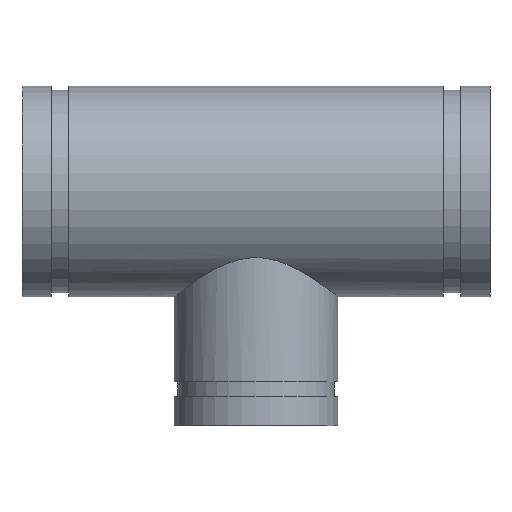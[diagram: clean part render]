
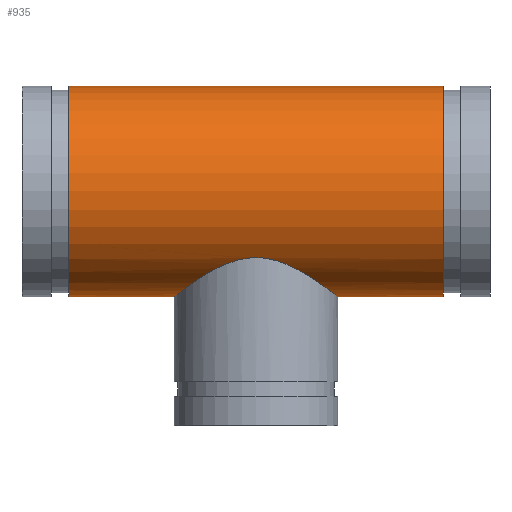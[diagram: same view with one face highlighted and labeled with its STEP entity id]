
A CAD part, top view. The second image highlights one B-rep face of the part: STEP entity #935.
In plain terms, the highlighted cylindrical face has radius 57.15 mm (diameter 114.3 mm), a full revolution.
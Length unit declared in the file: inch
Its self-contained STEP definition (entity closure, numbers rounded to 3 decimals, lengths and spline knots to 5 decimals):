
#61=FACE_BOUND('',#222,.T.);
#67=B_SPLINE_CURVE_WITH_KNOTS('',3,(#1807,#1808,#1809,#1810,#1811,#1812,
#1813,#1814,#1815,#1816,#1817,#1818,#1819,#1820,#1821,#1822,#1823,#1824),
 .UNSPECIFIED.,.F.,.F.,(4,2,2,2,2,2,2,2,4),(0.,0.90377,1.80754,
2.7113,3.61507,4.49524,5.37541,6.25558,
7.13574),.UNSPECIFIED.);
#68=B_SPLINE_CURVE_WITH_KNOTS('',3,(#1825,#1826,#1827,#1828,#1829,#1830,
#1831,#1832,#1833,#1834,#1835,#1836,#1837,#1838,#1839,#1840,#1841,#1842,
#1843,#1844,#1845,#1846,#1847,#1848,#1849,#1850,#1851,#1852,#1853,#1854,
#1855,#1856,#1857,#1858,#1859,#1860,#1861,#1862,#1863,#1864,#1865,#1866,
#1867,#1868,#1869,#1870,#1871,#1872,#1873,#1874),.UNSPECIFIED.,.F.,.F.,
(4,2,2,2,2,2,2,2,2,2,2,2,2,2,2,2,2,2,2,2,2,2,2,2,4),(7.13574,8.01591,
8.89608,9.77625,10.65641,11.56018,12.46395,
13.36772,14.27149,15.17525,16.07902,16.98279,
17.88656,18.76673,19.64689,20.52706,21.40723,
22.2874,23.16757,24.04773,24.9279,25.83167,
26.73544,27.6392,28.54297),.UNSPECIFIED.);
#81=CYLINDRICAL_SURFACE('',#1104,2.25);
#103=LINE('',#1804,#125);
#125=VECTOR('',#1432,2.25);
#171=FACE_OUTER_BOUND('',#221,.T.);
#221=EDGE_LOOP('',(#814,#815,#816,#817));
#222=EDGE_LOOP('',(#818,#819));
#326=CIRCLE('',#1087,2.25);
#337=CIRCLE('',#1103,2.25);
#424=VERTEX_POINT('',#1772);
#435=VERTEX_POINT('',#1801);
#436=VERTEX_POINT('',#1805);
#437=VERTEX_POINT('',#1806);
#552=EDGE_CURVE('',#424,#424,#326,.T.);
#565=EDGE_CURVE('',#435,#435,#337,.T.);
#566=EDGE_CURVE('',#435,#424,#103,.T.);
#567=EDGE_CURVE('',#436,#437,#67,.T.);
#568=EDGE_CURVE('',#437,#436,#68,.T.);
#814=ORIENTED_EDGE('',*,*,#565,.T.);
#815=ORIENTED_EDGE('',*,*,#566,.T.);
#816=ORIENTED_EDGE('',*,*,#552,.T.);
#817=ORIENTED_EDGE('',*,*,#566,.F.);
#818=ORIENTED_EDGE('',*,*,#567,.T.);
#819=ORIENTED_EDGE('',*,*,#568,.T.);
#935=ADVANCED_FACE('',(#171,#61),#81,.T.);
#1087=AXIS2_PLACEMENT_3D('',#1773,#1394,#1395);
#1103=AXIS2_PLACEMENT_3D('',#1802,#1428,#1429);
#1104=AXIS2_PLACEMENT_3D('',#1803,#1430,#1431);
#1394=DIRECTION('center_axis',(-1.,0.,0.));
#1395=DIRECTION('ref_axis',(0.,-1.,0.));
#1428=DIRECTION('center_axis',(1.,0.,0.));
#1429=DIRECTION('ref_axis',(0.,-1.,0.));
#1430=DIRECTION('center_axis',(-1.,0.,0.));
#1431=DIRECTION('ref_axis',(0.,-1.,0.));
#1432=DIRECTION('',(1.,0.,0.));
#1772=CARTESIAN_POINT('',(4.,2.25,0.));
#1773=CARTESIAN_POINT('Origin',(4.,0.,0.));
#1801=CARTESIAN_POINT('',(-4.,2.25,0.));
#1802=CARTESIAN_POINT('Origin',(-4.,0.,0.));
#1803=CARTESIAN_POINT('Origin',(5.,0.,0.));
#1804=CARTESIAN_POINT('',(5.,2.25,0.));
#1805=CARTESIAN_POINT('',(0.,-1.41421,-1.75));
#1806=CARTESIAN_POINT('',(-1.75,-2.25,0.));
#1807=CARTESIAN_POINT('Ctrl Pts',(0.,-1.41421,
-1.75));
#1808=CARTESIAN_POINT('Ctrl Pts',(-0.1186,-1.41421,-1.75));
#1809=CARTESIAN_POINT('Ctrl Pts',(-0.23693,-1.42958,-1.73785));
#1810=CARTESIAN_POINT('Ctrl Pts',(-0.46672,-1.48506,
-1.69069));
#1811=CARTESIAN_POINT('Ctrl Pts',(-0.57826,-1.52489,
-1.6557));
#1812=CARTESIAN_POINT('Ctrl Pts',(-0.78996,-1.61708,-1.56579));
#1813=CARTESIAN_POINT('Ctrl Pts',(-0.89032,-1.66939,
-1.51077));
#1814=CARTESIAN_POINT('Ctrl Pts',(-1.07605,-1.77541,-1.38464));
#1815=CARTESIAN_POINT('Ctrl Pts',(-1.16141,-1.8291,-1.31347));
#1816=CARTESIAN_POINT('Ctrl Pts',(-1.31148,-1.92792,-1.16339));
#1817=CARTESIAN_POINT('Ctrl Pts',(-1.38219,-1.97699,-1.0792));
#1818=CARTESIAN_POINT('Ctrl Pts',(-1.50882,-2.0675,-0.89364));
#1819=CARTESIAN_POINT('Ctrl Pts',(-1.56474,-2.10891,-0.79226));
#1820=CARTESIAN_POINT('Ctrl Pts',(-1.65597,-2.17746,-0.57779));
#1821=CARTESIAN_POINT('Ctrl Pts',(-1.69136,-2.20465,-0.46446));
#1822=CARTESIAN_POINT('Ctrl Pts',(-1.73838,-2.24093,-0.23332));
#1823=CARTESIAN_POINT('Ctrl Pts',(-1.75,-2.25,-0.11551));
#1824=CARTESIAN_POINT('Ctrl Pts',(-1.75,-2.25,0.));
#1825=CARTESIAN_POINT('Ctrl Pts',(-1.75,-2.25,0.));
#1826=CARTESIAN_POINT('Ctrl Pts',(-1.75,-2.25,0.11551));
#1827=CARTESIAN_POINT('Ctrl Pts',(-1.73838,-2.24093,0.23332));
#1828=CARTESIAN_POINT('Ctrl Pts',(-1.69136,-2.20465,0.46446));
#1829=CARTESIAN_POINT('Ctrl Pts',(-1.65597,-2.17746,0.57779));
#1830=CARTESIAN_POINT('Ctrl Pts',(-1.56474,-2.10891,0.79226));
#1831=CARTESIAN_POINT('Ctrl Pts',(-1.50882,-2.0675,0.89364));
#1832=CARTESIAN_POINT('Ctrl Pts',(-1.38219,-1.97699,1.0792));
#1833=CARTESIAN_POINT('Ctrl Pts',(-1.31148,-1.92792,1.16339));
#1834=CARTESIAN_POINT('Ctrl Pts',(-1.16141,-1.8291,1.31347));
#1835=CARTESIAN_POINT('Ctrl Pts',(-1.07605,-1.77541,1.38464));
#1836=CARTESIAN_POINT('Ctrl Pts',(-0.89032,-1.66939,
1.51077));
#1837=CARTESIAN_POINT('Ctrl Pts',(-0.78996,-1.61708,1.56579));
#1838=CARTESIAN_POINT('Ctrl Pts',(-0.57826,-1.52489,
1.6557));
#1839=CARTESIAN_POINT('Ctrl Pts',(-0.46672,-1.48506,
1.69069));
#1840=CARTESIAN_POINT('Ctrl Pts',(-0.23693,-1.42958,1.73785));
#1841=CARTESIAN_POINT('Ctrl Pts',(-0.1186,-1.41421,1.75));
#1842=CARTESIAN_POINT('Ctrl Pts',(0.1186,-1.41421,1.75));
#1843=CARTESIAN_POINT('Ctrl Pts',(0.23693,-1.42958,1.73785));
#1844=CARTESIAN_POINT('Ctrl Pts',(0.46672,-1.48506,1.69069));
#1845=CARTESIAN_POINT('Ctrl Pts',(0.57826,-1.52489,1.6557));
#1846=CARTESIAN_POINT('Ctrl Pts',(0.78996,-1.61708,1.56579));
#1847=CARTESIAN_POINT('Ctrl Pts',(0.89032,-1.66939,1.51077));
#1848=CARTESIAN_POINT('Ctrl Pts',(1.07605,-1.77541,1.38464));
#1849=CARTESIAN_POINT('Ctrl Pts',(1.16141,-1.8291,1.31347));
#1850=CARTESIAN_POINT('Ctrl Pts',(1.31148,-1.92792,1.16339));
#1851=CARTESIAN_POINT('Ctrl Pts',(1.38219,-1.97699,1.0792));
#1852=CARTESIAN_POINT('Ctrl Pts',(1.50882,-2.0675,0.89364));
#1853=CARTESIAN_POINT('Ctrl Pts',(1.56474,-2.10891,0.79226));
#1854=CARTESIAN_POINT('Ctrl Pts',(1.65597,-2.17746,0.57779));
#1855=CARTESIAN_POINT('Ctrl Pts',(1.69136,-2.20465,0.46446));
#1856=CARTESIAN_POINT('Ctrl Pts',(1.73838,-2.24093,0.23332));
#1857=CARTESIAN_POINT('Ctrl Pts',(1.75,-2.25,0.11551));
#1858=CARTESIAN_POINT('Ctrl Pts',(1.75,-2.25,-0.11551));
#1859=CARTESIAN_POINT('Ctrl Pts',(1.73838,-2.24093,-0.23332));
#1860=CARTESIAN_POINT('Ctrl Pts',(1.69136,-2.20465,-0.46446));
#1861=CARTESIAN_POINT('Ctrl Pts',(1.65597,-2.17746,-0.57779));
#1862=CARTESIAN_POINT('Ctrl Pts',(1.56474,-2.10891,-0.79226));
#1863=CARTESIAN_POINT('Ctrl Pts',(1.50882,-2.0675,-0.89364));
#1864=CARTESIAN_POINT('Ctrl Pts',(1.38219,-1.97699,-1.0792));
#1865=CARTESIAN_POINT('Ctrl Pts',(1.31148,-1.92792,-1.16339));
#1866=CARTESIAN_POINT('Ctrl Pts',(1.16141,-1.8291,-1.31347));
#1867=CARTESIAN_POINT('Ctrl Pts',(1.07605,-1.77541,-1.38464));
#1868=CARTESIAN_POINT('Ctrl Pts',(0.89032,-1.66939,-1.51077));
#1869=CARTESIAN_POINT('Ctrl Pts',(0.78996,-1.61708,-1.56579));
#1870=CARTESIAN_POINT('Ctrl Pts',(0.57826,-1.52489,-1.6557));
#1871=CARTESIAN_POINT('Ctrl Pts',(0.46672,-1.48506,-1.69069));
#1872=CARTESIAN_POINT('Ctrl Pts',(0.23693,-1.42958,-1.73785));
#1873=CARTESIAN_POINT('Ctrl Pts',(0.1186,-1.41421,-1.75));
#1874=CARTESIAN_POINT('Ctrl Pts',(0.,-1.41421,
-1.75));
